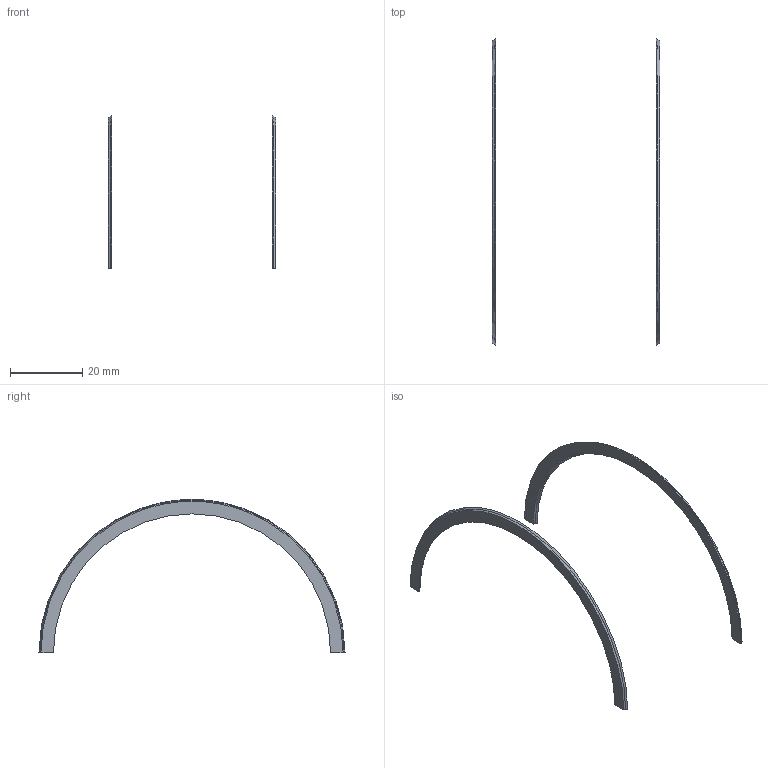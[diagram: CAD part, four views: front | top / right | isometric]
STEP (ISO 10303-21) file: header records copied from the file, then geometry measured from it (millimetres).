
FILE_DESCRIPTION(('Open CASCADE Model'),'2;1');
FILE_NAME('Open CASCADE Shape Model','2026-11-20T06:39:38',('Author'),( 'Open CASCADE'),'Open CASCADE STEP processor 7.8','Open CASCADE 7.8' ,'Unknown');
FILE_SCHEMA(('AUTOMOTIVE_DESIGN { 1 0 10303 214 1 1 1 1 }'));
Length unit declared in the file: millimetre
Products named in the file (3): B01_partition_inward_050_partition_reference; Partition_Xminus; Partition_Xplus
Assembly tree (2 placements, depth 2):
  B01_partition_inward_050_partition_reference
    Partition_Xminus
    Partition_Xplus
Bounding box: 46.4 x 84.89 x 42.44 mm (x, y, z)
Volume: 875.2 mm3; surface area: 2346.3 mm2
Topology: 2 solids, 2 shells, 16 faces, 36 edges, 24 vertices
Faces by surface type: sphere 8, plane 8
Entity records: 1965 total; most frequent: CARTESIAN_POINT 1270, DIRECTION 116, ORIENTED_EDGE 72, PCURVE 72, DEFINITIONAL_REPRESENTATION 72, AXIS2_PLACEMENT_3D 47, B_SPLINE_CURVE_WITH_KNOTS 40, EDGE_CURVE 36
